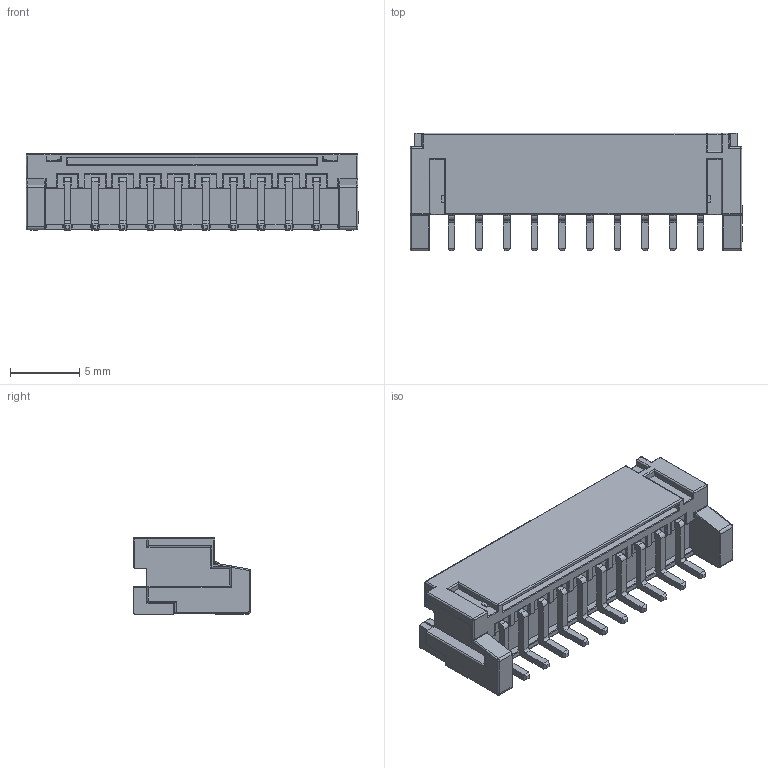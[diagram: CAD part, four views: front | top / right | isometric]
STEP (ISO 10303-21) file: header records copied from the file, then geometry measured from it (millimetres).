
FILE_DESCRIPTION (( 'STEP AP214' ), '1' );
FILE_NAME ('CONN-SMD_S10B-PH-SM4-TB-LF-SN.step', '2022-08-01T08:41:18', ( '' ), ( '' ), 'SwSTEP 2.0', 'SolidWorks 2020', '' );
FILE_SCHEMA (( 'AUTOMOTIVE_DESIGN' ));
Length unit declared in the file: millimetre
Products named in the file (1): CONN-SMD_S10B-PH-SM4-TB-LF-SN
Bounding box: 24 x 8.51 x 5.55 mm (x, y, z)
Volume: 296 mm3; surface area: 1256.1 mm2
Topology: 24 solids, 24 shells, 1052 faces, 2664 edges, 1626 vertices
Faces by surface type: plane 613, cylinder 271, bspline 128, sphere 28, torus 12
Entity records: 43787 total; most frequent: CARTESIAN_POINT 8169, ORIENTED_EDGE 5244, DIRECTION 4340, EDGE_CURVE 2622, VECTOR 1962, LINE 1962, VERTEX_POINT 1626, AXIS2_PLACEMENT_3D 1189
